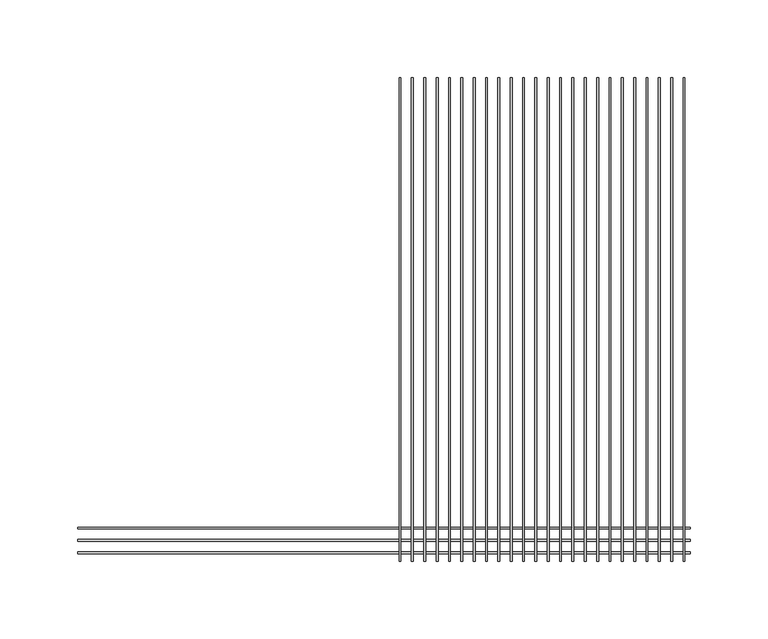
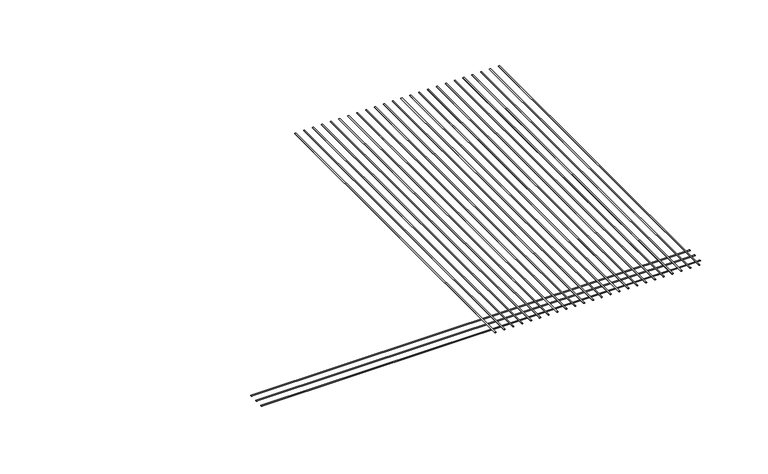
"""IFC4 building model written with IfcOpenShell, lengths in millimetres: proxy geometry, CRAi Generic Model Mesh Piece Face Based : CRAi Generic Model Mesh Piece Face Based."""

from ifc_helpers import new_model, si_unit, point, frame, origin, place, context, project, spatial, ellipse_curve, trimmed, source, transform, mapped, element, save
from ifc_brep_helpers import plane_surface, extruded_surface, advanced_brep


def generic_models_9f719c15(model_context):
    return source(origin(), model_context, "Body", "AdvancedBrep", [
        advanced_brep(
        [(9.7234375, 155.512111, -2.5796875), (10.9140625, 155.512111, -2.5796875), (9.7234375, -155.512111, -2.5796875), (10.9140625, -155.512111, -2.5796875)],
        [
            (0, 1, ellipse_curve(frame((10.31875, 155.512111, -2.5796875), z_axis=(0.0, 1.0, 0.0), x_axis=(1.0, 0.0, 0.0)), 0.5953125, 0.1984375)),
            (1, 0, ellipse_curve(frame((10.31875, 155.512111, -2.5796875), z_axis=(0.0, 1.0, 0.0), x_axis=(1.0, 0.0, 0.0)), 0.5953125, 0.1984375)),
            (2, 3, ellipse_curve(frame((10.31875, -155.512111, -2.5796875), z_axis=(0.0, -1.0, 0.0), x_axis=(1.0, 0.0, 0.0)), 0.5953125, 0.1984375)),
            (3, 2, ellipse_curve(frame((10.31875, -155.512111, -2.5796875), z_axis=(0.0, -1.0, 0.0), x_axis=(1.0, 0.0, 0.0)), 0.5953125, 0.1984375)),
            (1, 3),
            (2, 0),
        ],
        [
            plane_surface(frame((10.31875, 155.512111, -2.5796875), z_axis=(0.0, 1.0, 0.0), x_axis=(0.0, 0.0, 1.0))),
            plane_surface(frame((10.31875, -155.512111, -2.5796875), z_axis=(0.0, -1.0, 0.0), x_axis=(0.0, 0.0, 1.0))),
            extruded_surface(trimmed(ellipse_curve(frame((10.31875, 155.512111, -2.5796875), z_axis=(0.0, -1.0, 0.0), x_axis=(1.0, 0.0, 0.0)), 0.5953125, 0.1984375), [point((9.7234375, 155.512111, -2.5796875))], [point((10.9140625, 155.512111, -2.5796875))], True, "CARTESIAN"), (0.0, -311.024222, 0.0), 311.024222),
            extruded_surface(trimmed(ellipse_curve(frame((10.31875, 155.512111, -2.5796875), z_axis=(0.0, -1.0, 0.0), x_axis=(1.0, 0.0, 0.0)), 0.5953125, 0.1984375), [point((10.9140625, 155.512111, -2.5796875))], [point((9.7234375, 155.512111, -2.5796875))], True, "CARTESIAN"), (0.0, -311.024222, 0.0), 311.024222),
        ],
        [
            (0, [[1, 2]]),
            (1, [[3, 4]]),
            (2, [[5, -3, 6, -2]]),
            (3, [[-6, -4, -5, -1]]),
        ],
    ),
        advanced_brep(
        [(17.6609375, 155.512111, -2.5796875), (18.8515625, 155.512111, -2.5796875), (17.6609375, -155.512111, -2.5796875), (18.8515625, -155.512111, -2.5796875)],
        [
            (0, 1, ellipse_curve(frame((18.25625, 155.512111, -2.5796875), z_axis=(0.0, 1.0, 0.0), x_axis=(1.0, 0.0, 0.0)), 0.5953125, 0.1984375)),
            (1, 0, ellipse_curve(frame((18.25625, 155.512111, -2.5796875), z_axis=(0.0, 1.0, 0.0), x_axis=(1.0, 0.0, 0.0)), 0.5953125, 0.1984375)),
            (2, 3, ellipse_curve(frame((18.25625, -155.512111, -2.5796875), z_axis=(0.0, -1.0, 0.0), x_axis=(1.0, 0.0, 0.0)), 0.5953125, 0.1984375)),
            (3, 2, ellipse_curve(frame((18.25625, -155.512111, -2.5796875), z_axis=(0.0, -1.0, 0.0), x_axis=(1.0, 0.0, 0.0)), 0.5953125, 0.1984375)),
            (1, 3),
            (2, 0),
        ],
        [
            plane_surface(frame((18.25625, 155.512111, -2.5796875), z_axis=(0.0, 1.0, 0.0), x_axis=(0.0, 0.0, 1.0))),
            plane_surface(frame((18.25625, -155.512111, -2.5796875), z_axis=(0.0, -1.0, 0.0), x_axis=(0.0, 0.0, 1.0))),
            extruded_surface(trimmed(ellipse_curve(frame((18.25625, 155.512111, -2.5796875), z_axis=(0.0, -1.0, 0.0), x_axis=(1.0, 0.0, 0.0)), 0.5953125, 0.1984375), [point((17.6609375, 155.512111, -2.5796875))], [point((18.8515625, 155.512111, -2.5796875))], True, "CARTESIAN"), (0.0, -311.024222, 0.0), 311.024222),
            extruded_surface(trimmed(ellipse_curve(frame((18.25625, 155.512111, -2.5796875), z_axis=(0.0, -1.0, 0.0), x_axis=(1.0, 0.0, 0.0)), 0.5953125, 0.1984375), [point((18.8515625, 155.512111, -2.5796875))], [point((17.6609375, 155.512111, -2.5796875))], True, "CARTESIAN"), (0.0, -311.024222, 0.0), 311.024222),
        ],
        [
            (0, [[1, 2]]),
            (1, [[3, 4]]),
            (2, [[5, -3, 6, -2]]),
            (3, [[-6, -4, -5, -1]]),
        ],
    ),
        advanced_brep(
        [(25.5984375, 155.512111, -2.5796875), (26.7890625, 155.512111, -2.5796875), (25.5984375, -155.512111, -2.5796875), (26.7890625, -155.512111, -2.5796875)],
        [
            (0, 1, ellipse_curve(frame((26.19375, 155.512111, -2.5796875), z_axis=(0.0, 1.0, 0.0), x_axis=(1.0, 0.0, 0.0)), 0.5953125, 0.1984375)),
            (1, 0, ellipse_curve(frame((26.19375, 155.512111, -2.5796875), z_axis=(0.0, 1.0, 0.0), x_axis=(1.0, 0.0, 0.0)), 0.5953125, 0.1984375)),
            (2, 3, ellipse_curve(frame((26.19375, -155.512111, -2.5796875), z_axis=(0.0, -1.0, 0.0), x_axis=(1.0, 0.0, 0.0)), 0.5953125, 0.1984375)),
            (3, 2, ellipse_curve(frame((26.19375, -155.512111, -2.5796875), z_axis=(0.0, -1.0, 0.0), x_axis=(1.0, 0.0, 0.0)), 0.5953125, 0.1984375)),
            (1, 3),
            (2, 0),
        ],
        [
            plane_surface(frame((26.19375, 155.512111, -2.5796875), z_axis=(0.0, 1.0, 0.0), x_axis=(0.0, 0.0, 1.0))),
            plane_surface(frame((26.19375, -155.512111, -2.5796875), z_axis=(0.0, -1.0, 0.0), x_axis=(0.0, 0.0, 1.0))),
            extruded_surface(trimmed(ellipse_curve(frame((26.19375, 155.512111, -2.5796875), z_axis=(0.0, -1.0, 0.0), x_axis=(1.0, 0.0, 0.0)), 0.5953125, 0.1984375), [point((25.5984375, 155.512111, -2.5796875))], [point((26.7890625, 155.512111, -2.5796875))], True, "CARTESIAN"), (0.0, -311.024222, 0.0), 311.024222),
            extruded_surface(trimmed(ellipse_curve(frame((26.19375, 155.512111, -2.5796875), z_axis=(0.0, -1.0, 0.0), x_axis=(1.0, 0.0, 0.0)), 0.5953125, 0.1984375), [point((26.7890625, 155.512111, -2.5796875))], [point((25.5984375, 155.512111, -2.5796875))], True, "CARTESIAN"), (0.0, -311.024222, 0.0), 311.024222),
        ],
        [
            (0, [[1, 2]]),
            (1, [[3, 4]]),
            (2, [[5, -3, 6, -2]]),
            (3, [[-6, -4, -5, -1]]),
        ],
    ),
        advanced_brep(
        [(33.5359375, 155.512111, -2.5796875), (34.7265625, 155.512111, -2.5796875), (33.5359375, -155.512111, -2.5796875), (34.7265625, -155.512111, -2.5796875)],
        [
            (0, 1, ellipse_curve(frame((34.13125, 155.512111, -2.5796875), z_axis=(0.0, 1.0, 0.0), x_axis=(1.0, 0.0, 0.0)), 0.5953125, 0.1984375)),
            (1, 0, ellipse_curve(frame((34.13125, 155.512111, -2.5796875), z_axis=(0.0, 1.0, 0.0), x_axis=(1.0, 0.0, 0.0)), 0.5953125, 0.1984375)),
            (2, 3, ellipse_curve(frame((34.13125, -155.512111, -2.5796875), z_axis=(0.0, -1.0, 0.0), x_axis=(1.0, 0.0, 0.0)), 0.5953125, 0.1984375)),
            (3, 2, ellipse_curve(frame((34.13125, -155.512111, -2.5796875), z_axis=(0.0, -1.0, 0.0), x_axis=(1.0, 0.0, 0.0)), 0.5953125, 0.1984375)),
            (1, 3),
            (2, 0),
        ],
        [
            plane_surface(frame((34.13125, 155.512111, -2.5796875), z_axis=(0.0, 1.0, 0.0), x_axis=(0.0, 0.0, 1.0))),
            plane_surface(frame((34.13125, -155.512111, -2.5796875), z_axis=(0.0, -1.0, 0.0), x_axis=(0.0, 0.0, 1.0))),
            extruded_surface(trimmed(ellipse_curve(frame((34.13125, 155.512111, -2.5796875), z_axis=(0.0, -1.0, 0.0), x_axis=(1.0, 0.0, 0.0)), 0.5953125, 0.1984375), [point((33.5359375, 155.512111, -2.5796875))], [point((34.7265625, 155.512111, -2.5796875))], True, "CARTESIAN"), (0.0, -311.024222, 0.0), 311.024222),
            extruded_surface(trimmed(ellipse_curve(frame((34.13125, 155.512111, -2.5796875), z_axis=(0.0, -1.0, 0.0), x_axis=(1.0, 0.0, 0.0)), 0.5953125, 0.1984375), [point((34.7265625, 155.512111, -2.5796875))], [point((33.5359375, 155.512111, -2.5796875))], True, "CARTESIAN"), (0.0, -311.024222, 0.0), 311.024222),
        ],
        [
            (0, [[1, 2]]),
            (1, [[3, 4]]),
            (2, [[5, -3, 6, -2]]),
            (3, [[-6, -4, -5, -1]]),
        ],
    ),
        advanced_brep(
        [(41.4734375, 155.512111, -2.5796875), (42.6640625, 155.512111, -2.5796875), (41.4734375, -155.512111, -2.5796875), (42.6640625, -155.512111, -2.5796875)],
        [
            (0, 1, ellipse_curve(frame((42.06875, 155.512111, -2.5796875), z_axis=(0.0, 1.0, 0.0), x_axis=(1.0, 0.0, 0.0)), 0.5953125, 0.1984375)),
            (1, 0, ellipse_curve(frame((42.06875, 155.512111, -2.5796875), z_axis=(0.0, 1.0, 0.0), x_axis=(1.0, 0.0, 0.0)), 0.5953125, 0.1984375)),
            (2, 3, ellipse_curve(frame((42.06875, -155.512111, -2.5796875), z_axis=(0.0, -1.0, 0.0), x_axis=(1.0, 0.0, 0.0)), 0.5953125, 0.1984375)),
            (3, 2, ellipse_curve(frame((42.06875, -155.512111, -2.5796875), z_axis=(0.0, -1.0, 0.0), x_axis=(1.0, 0.0, 0.0)), 0.5953125, 0.1984375)),
            (1, 3),
            (2, 0),
        ],
        [
            plane_surface(frame((42.06875, 155.512111, -2.5796875), z_axis=(0.0, 1.0, 0.0), x_axis=(0.0, 0.0, 1.0))),
            plane_surface(frame((42.06875, -155.512111, -2.5796875), z_axis=(0.0, -1.0, 0.0), x_axis=(0.0, 0.0, 1.0))),
            extruded_surface(trimmed(ellipse_curve(frame((42.06875, 155.512111, -2.5796875), z_axis=(0.0, -1.0, 0.0), x_axis=(1.0, 0.0, 0.0)), 0.5953125, 0.1984375), [point((41.4734375, 155.512111, -2.5796875))], [point((42.6640625, 155.512111, -2.5796875))], True, "CARTESIAN"), (0.0, -311.024222, 0.0), 311.024222),
            extruded_surface(trimmed(ellipse_curve(frame((42.06875, 155.512111, -2.5796875), z_axis=(0.0, -1.0, 0.0), x_axis=(1.0, 0.0, 0.0)), 0.5953125, 0.1984375), [point((42.6640625, 155.512111, -2.5796875))], [point((41.4734375, 155.512111, -2.5796875))], True, "CARTESIAN"), (0.0, -311.024222, 0.0), 311.024222),
        ],
        [
            (0, [[1, 2]]),
            (1, [[3, 4]]),
            (2, [[5, -3, 6, -2]]),
            (3, [[-6, -4, -5, -1]]),
        ],
    ),
        advanced_brep(
        [(49.4109375, 155.512111, -2.5796875), (50.6015625, 155.512111, -2.5796875), (49.4109375, -155.512111, -2.5796875), (50.6015625, -155.512111, -2.5796875)],
        [
            (0, 1, ellipse_curve(frame((50.00625, 155.512111, -2.5796875), z_axis=(0.0, 1.0, 0.0), x_axis=(1.0, 0.0, 0.0)), 0.5953125, 0.1984375)),
            (1, 0, ellipse_curve(frame((50.00625, 155.512111, -2.5796875), z_axis=(0.0, 1.0, 0.0), x_axis=(1.0, 0.0, 0.0)), 0.5953125, 0.1984375)),
            (2, 3, ellipse_curve(frame((50.00625, -155.512111, -2.5796875), z_axis=(0.0, -1.0, 0.0), x_axis=(1.0, 0.0, 0.0)), 0.5953125, 0.1984375)),
            (3, 2, ellipse_curve(frame((50.00625, -155.512111, -2.5796875), z_axis=(0.0, -1.0, 0.0), x_axis=(1.0, 0.0, 0.0)), 0.5953125, 0.1984375)),
            (1, 3),
            (2, 0),
        ],
        [
            plane_surface(frame((50.00625, 155.512111, -2.5796875), z_axis=(0.0, 1.0, 0.0), x_axis=(0.0, 0.0, 1.0))),
            plane_surface(frame((50.00625, -155.512111, -2.5796875), z_axis=(0.0, -1.0, 0.0), x_axis=(0.0, 0.0, 1.0))),
            extruded_surface(trimmed(ellipse_curve(frame((50.00625, 155.512111, -2.5796875), z_axis=(0.0, -1.0, 0.0), x_axis=(1.0, 0.0, 0.0)), 0.5953125, 0.1984375), [point((49.4109375, 155.512111, -2.5796875))], [point((50.6015625, 155.512111, -2.5796875))], True, "CARTESIAN"), (0.0, -311.024222, 0.0), 311.024222),
            extruded_surface(trimmed(ellipse_curve(frame((50.00625, 155.512111, -2.5796875), z_axis=(0.0, -1.0, 0.0), x_axis=(1.0, 0.0, 0.0)), 0.5953125, 0.1984375), [point((50.6015625, 155.512111, -2.5796875))], [point((49.4109375, 155.512111, -2.5796875))], True, "CARTESIAN"), (0.0, -311.024222, 0.0), 311.024222),
        ],
        [
            (0, [[1, 2]]),
            (1, [[3, 4]]),
            (2, [[5, -3, 6, -2]]),
            (3, [[-6, -4, -5, -1]]),
        ],
    ),
        advanced_brep(
        [(57.3484375, 155.512111, -2.5796875), (58.5390625, 155.512111, -2.5796875), (57.3484375, -155.512111, -2.5796875), (58.5390625, -155.512111, -2.5796875)],
        [
            (0, 1, ellipse_curve(frame((57.94375, 155.512111, -2.5796875), z_axis=(0.0, 1.0, 0.0), x_axis=(1.0, 0.0, 0.0)), 0.5953125, 0.1984375)),
            (1, 0, ellipse_curve(frame((57.94375, 155.512111, -2.5796875), z_axis=(0.0, 1.0, 0.0), x_axis=(1.0, 0.0, 0.0)), 0.5953125, 0.1984375)),
            (2, 3, ellipse_curve(frame((57.94375, -155.512111, -2.5796875), z_axis=(0.0, -1.0, 0.0), x_axis=(1.0, 0.0, 0.0)), 0.5953125, 0.1984375)),
            (3, 2, ellipse_curve(frame((57.94375, -155.512111, -2.5796875), z_axis=(0.0, -1.0, 0.0), x_axis=(1.0, 0.0, 0.0)), 0.5953125, 0.1984375)),
            (1, 3),
            (2, 0),
        ],
        [
            plane_surface(frame((57.94375, 155.512111, -2.5796875), z_axis=(0.0, 1.0, 0.0), x_axis=(0.0, 0.0, 1.0))),
            plane_surface(frame((57.94375, -155.512111, -2.5796875), z_axis=(0.0, -1.0, 0.0), x_axis=(0.0, 0.0, 1.0))),
            extruded_surface(trimmed(ellipse_curve(frame((57.94375, 155.512111, -2.5796875), z_axis=(0.0, -1.0, 0.0), x_axis=(1.0, 0.0, 0.0)), 0.5953125, 0.1984375), [point((57.3484375, 155.512111, -2.5796875))], [point((58.5390625, 155.512111, -2.5796875))], True, "CARTESIAN"), (0.0, -311.024222, 0.0), 311.024222),
            extruded_surface(trimmed(ellipse_curve(frame((57.94375, 155.512111, -2.5796875), z_axis=(0.0, -1.0, 0.0), x_axis=(1.0, 0.0, 0.0)), 0.5953125, 0.1984375), [point((58.5390625, 155.512111, -2.5796875))], [point((57.3484375, 155.512111, -2.5796875))], True, "CARTESIAN"), (0.0, -311.024222, 0.0), 311.024222),
        ],
        [
            (0, [[1, 2]]),
            (1, [[3, 4]]),
            (2, [[5, -3, 6, -2]]),
            (3, [[-6, -4, -5, -1]]),
        ],
    ),
        advanced_brep(
        [(65.2859375, 155.512111, -2.5796875), (66.4765625, 155.512111, -2.5796875), (65.2859375, -155.512111, -2.5796875), (66.4765625, -155.512111, -2.5796875)],
        [
            (0, 1, ellipse_curve(frame((65.88125, 155.512111, -2.5796875), z_axis=(0.0, 1.0, 0.0), x_axis=(1.0, 0.0, 0.0)), 0.5953125, 0.1984375)),
            (1, 0, ellipse_curve(frame((65.88125, 155.512111, -2.5796875), z_axis=(0.0, 1.0, 0.0), x_axis=(1.0, 0.0, 0.0)), 0.5953125, 0.1984375)),
            (2, 3, ellipse_curve(frame((65.88125, -155.512111, -2.5796875), z_axis=(0.0, -1.0, 0.0), x_axis=(1.0, 0.0, 0.0)), 0.5953125, 0.1984375)),
            (3, 2, ellipse_curve(frame((65.88125, -155.512111, -2.5796875), z_axis=(0.0, -1.0, 0.0), x_axis=(1.0, 0.0, 0.0)), 0.5953125, 0.1984375)),
            (1, 3),
            (2, 0),
        ],
        [
            plane_surface(frame((65.88125, 155.512111, -2.5796875), z_axis=(0.0, 1.0, 0.0), x_axis=(0.0, 0.0, 1.0))),
            plane_surface(frame((65.88125, -155.512111, -2.5796875), z_axis=(0.0, -1.0, 0.0), x_axis=(0.0, 0.0, 1.0))),
            extruded_surface(trimmed(ellipse_curve(frame((65.88125, 155.512111, -2.5796875), z_axis=(0.0, -1.0, 0.0), x_axis=(1.0, 0.0, 0.0)), 0.5953125, 0.1984375), [point((65.2859375, 155.512111, -2.5796875))], [point((66.4765625, 155.512111, -2.5796875))], True, "CARTESIAN"), (0.0, -311.024222, 0.0), 311.024222),
            extruded_surface(trimmed(ellipse_curve(frame((65.88125, 155.512111, -2.5796875), z_axis=(0.0, -1.0, 0.0), x_axis=(1.0, 0.0, 0.0)), 0.5953125, 0.1984375), [point((66.4765625, 155.512111, -2.5796875))], [point((65.2859375, 155.512111, -2.5796875))], True, "CARTESIAN"), (0.0, -311.024222, 0.0), 311.024222),
        ],
        [
            (0, [[1, 2]]),
            (1, [[3, 4]]),
            (2, [[5, -3, 6, -2]]),
            (3, [[-6, -4, -5, -1]]),
        ],
    ),
        advanced_brep(
        [(73.2234375, 155.512111, -2.5796875), (74.4140625, 155.512111, -2.5796875), (73.2234375, -155.512111, -2.5796875), (74.4140625, -155.512111, -2.5796875)],
        [
            (0, 1, ellipse_curve(frame((73.81875, 155.512111, -2.5796875), z_axis=(0.0, 1.0, 0.0), x_axis=(1.0, 0.0, 0.0)), 0.5953125, 0.1984375)),
            (1, 0, ellipse_curve(frame((73.81875, 155.512111, -2.5796875), z_axis=(0.0, 1.0, 0.0), x_axis=(1.0, 0.0, 0.0)), 0.5953125, 0.1984375)),
            (2, 3, ellipse_curve(frame((73.81875, -155.512111, -2.5796875), z_axis=(0.0, -1.0, 0.0), x_axis=(1.0, 0.0, 0.0)), 0.5953125, 0.1984375)),
            (3, 2, ellipse_curve(frame((73.81875, -155.512111, -2.5796875), z_axis=(0.0, -1.0, 0.0), x_axis=(1.0, 0.0, 0.0)), 0.5953125, 0.1984375)),
            (1, 3),
            (2, 0),
        ],
        [
            plane_surface(frame((73.81875, 155.512111, -2.5796875), z_axis=(0.0, 1.0, 0.0), x_axis=(0.0, 0.0, 1.0))),
            plane_surface(frame((73.81875, -155.512111, -2.5796875), z_axis=(0.0, -1.0, 0.0), x_axis=(0.0, 0.0, 1.0))),
            extruded_surface(trimmed(ellipse_curve(frame((73.81875, 155.512111, -2.5796875), z_axis=(0.0, -1.0, 0.0), x_axis=(1.0, 0.0, 0.0)), 0.5953125, 0.1984375), [point((73.2234375, 155.512111, -2.5796875))], [point((74.4140625, 155.512111, -2.5796875))], True, "CARTESIAN"), (0.0, -311.024222, 0.0), 311.024222),
            extruded_surface(trimmed(ellipse_curve(frame((73.81875, 155.512111, -2.5796875), z_axis=(0.0, -1.0, 0.0), x_axis=(1.0, 0.0, 0.0)), 0.5953125, 0.1984375), [point((74.4140625, 155.512111, -2.5796875))], [point((73.2234375, 155.512111, -2.5796875))], True, "CARTESIAN"), (0.0, -311.024222, 0.0), 311.024222),
        ],
        [
            (0, [[1, 2]]),
            (1, [[3, 4]]),
            (2, [[5, -3, 6, -2]]),
            (3, [[-6, -4, -5, -1]]),
        ],
    ),
        advanced_brep(
        [(81.1609375, 155.512111, -2.5796875), (82.3515625, 155.512111, -2.5796875), (81.1609375, -155.512111, -2.5796875), (82.3515625, -155.512111, -2.5796875)],
        [
            (0, 1, ellipse_curve(frame((81.75625, 155.512111, -2.5796875), z_axis=(0.0, 1.0, 0.0), x_axis=(1.0, 0.0, 0.0)), 0.5953125, 0.1984375)),
            (1, 0, ellipse_curve(frame((81.75625, 155.512111, -2.5796875), z_axis=(0.0, 1.0, 0.0), x_axis=(1.0, 0.0, 0.0)), 0.5953125, 0.1984375)),
            (2, 3, ellipse_curve(frame((81.75625, -155.512111, -2.5796875), z_axis=(0.0, -1.0, 0.0), x_axis=(1.0, 0.0, 0.0)), 0.5953125, 0.1984375)),
            (3, 2, ellipse_curve(frame((81.75625, -155.512111, -2.5796875), z_axis=(0.0, -1.0, 0.0), x_axis=(1.0, 0.0, 0.0)), 0.5953125, 0.1984375)),
            (1, 3),
            (2, 0),
        ],
        [
            plane_surface(frame((81.75625, 155.512111, -2.5796875), z_axis=(0.0, 1.0, 0.0), x_axis=(0.0, 0.0, 1.0))),
            plane_surface(frame((81.75625, -155.512111, -2.5796875), z_axis=(0.0, -1.0, 0.0), x_axis=(0.0, 0.0, 1.0))),
            extruded_surface(trimmed(ellipse_curve(frame((81.75625, 155.512111, -2.5796875), z_axis=(0.0, -1.0, 0.0), x_axis=(1.0, 0.0, 0.0)), 0.5953125, 0.1984375), [point((81.1609375, 155.512111, -2.5796875))], [point((82.3515625, 155.512111, -2.5796875))], True, "CARTESIAN"), (0.0, -311.024222, 0.0), 311.024222),
            extruded_surface(trimmed(ellipse_curve(frame((81.75625, 155.512111, -2.5796875), z_axis=(0.0, -1.0, 0.0), x_axis=(1.0, 0.0, 0.0)), 0.5953125, 0.1984375), [point((82.3515625, 155.512111, -2.5796875))], [point((81.1609375, 155.512111, -2.5796875))], True, "CARTESIAN"), (0.0, -311.024222, 0.0), 311.024222),
        ],
        [
            (0, [[1, 2]]),
            (1, [[3, 4]]),
            (2, [[5, -3, 6, -2]]),
            (3, [[-6, -4, -5, -1]]),
        ],
    ),
        advanced_brep(
        [(89.0984375, 155.512111, -2.5796875), (90.2890625, 155.512111, -2.5796875), (89.0984375, -155.512111, -2.5796875), (90.2890625, -155.512111, -2.5796875)],
        [
            (0, 1, ellipse_curve(frame((89.69375, 155.512111, -2.5796875), z_axis=(0.0, 1.0, 0.0), x_axis=(1.0, 0.0, 0.0)), 0.5953125, 0.1984375)),
            (1, 0, ellipse_curve(frame((89.69375, 155.512111, -2.5796875), z_axis=(0.0, 1.0, 0.0), x_axis=(1.0, 0.0, 0.0)), 0.5953125, 0.1984375)),
            (2, 3, ellipse_curve(frame((89.69375, -155.512111, -2.5796875), z_axis=(0.0, -1.0, 0.0), x_axis=(1.0, 0.0, 0.0)), 0.5953125, 0.1984375)),
            (3, 2, ellipse_curve(frame((89.69375, -155.512111, -2.5796875), z_axis=(0.0, -1.0, 0.0), x_axis=(1.0, 0.0, 0.0)), 0.5953125, 0.1984375)),
            (1, 3),
            (2, 0),
        ],
        [
            plane_surface(frame((89.69375, 155.512111, -2.5796875), z_axis=(0.0, 1.0, 0.0), x_axis=(0.0, 0.0, 1.0))),
            plane_surface(frame((89.69375, -155.512111, -2.5796875), z_axis=(0.0, -1.0, 0.0), x_axis=(0.0, 0.0, 1.0))),
            extruded_surface(trimmed(ellipse_curve(frame((89.69375, 155.512111, -2.5796875), z_axis=(0.0, -1.0, 0.0), x_axis=(1.0, 0.0, 0.0)), 0.5953125, 0.1984375), [point((89.0984375, 155.512111, -2.5796875))], [point((90.2890625, 155.512111, -2.5796875))], True, "CARTESIAN"), (0.0, -311.024222, 0.0), 311.024222),
            extruded_surface(trimmed(ellipse_curve(frame((89.69375, 155.512111, -2.5796875), z_axis=(0.0, -1.0, 0.0), x_axis=(1.0, 0.0, 0.0)), 0.5953125, 0.1984375), [point((90.2890625, 155.512111, -2.5796875))], [point((89.0984375, 155.512111, -2.5796875))], True, "CARTESIAN"), (0.0, -311.024222, 0.0), 311.024222),
        ],
        [
            (0, [[1, 2]]),
            (1, [[3, 4]]),
            (2, [[5, -3, 6, -2]]),
            (3, [[-6, -4, -5, -1]]),
        ],
    ),
        advanced_brep(
        [(97.0359375, 155.512111, -2.5796875), (98.2265625, 155.512111, -2.5796875), (97.0359375, -155.512111, -2.5796875), (98.2265625, -155.512111, -2.5796875)],
        [
            (0, 1, ellipse_curve(frame((97.63125, 155.512111, -2.5796875), z_axis=(0.0, 1.0, 0.0), x_axis=(1.0, 0.0, 0.0)), 0.5953125, 0.1984375)),
            (1, 0, ellipse_curve(frame((97.63125, 155.512111, -2.5796875), z_axis=(0.0, 1.0, 0.0), x_axis=(1.0, 0.0, 0.0)), 0.5953125, 0.1984375)),
            (2, 3, ellipse_curve(frame((97.63125, -155.512111, -2.5796875), z_axis=(0.0, -1.0, 0.0), x_axis=(1.0, 0.0, 0.0)), 0.5953125, 0.1984375)),
            (3, 2, ellipse_curve(frame((97.63125, -155.512111, -2.5796875), z_axis=(0.0, -1.0, 0.0), x_axis=(1.0, 0.0, 0.0)), 0.5953125, 0.1984375)),
            (1, 3),
            (2, 0),
        ],
        [
            plane_surface(frame((97.63125, 155.512111, -2.5796875), z_axis=(0.0, 1.0, 0.0), x_axis=(0.0, 0.0, 1.0))),
            plane_surface(frame((97.63125, -155.512111, -2.5796875), z_axis=(0.0, -1.0, 0.0), x_axis=(0.0, 0.0, 1.0))),
            extruded_surface(trimmed(ellipse_curve(frame((97.63125, 155.512111, -2.5796875), z_axis=(0.0, -1.0, 0.0), x_axis=(1.0, 0.0, 0.0)), 0.5953125, 0.1984375), [point((97.0359375, 155.512111, -2.5796875))], [point((98.2265625, 155.512111, -2.5796875))], True, "CARTESIAN"), (0.0, -311.024222, 0.0), 311.024222),
            extruded_surface(trimmed(ellipse_curve(frame((97.63125, 155.512111, -2.5796875), z_axis=(0.0, -1.0, 0.0), x_axis=(1.0, 0.0, 0.0)), 0.5953125, 0.1984375), [point((98.2265625, 155.512111, -2.5796875))], [point((97.0359375, 155.512111, -2.5796875))], True, "CARTESIAN"), (0.0, -311.024222, 0.0), 311.024222),
        ],
        [
            (0, [[1, 2]]),
            (1, [[3, 4]]),
            (2, [[5, -3, 6, -2]]),
            (3, [[-6, -4, -5, -1]]),
        ],
    ),
        advanced_brep(
        [(104.9734375, 155.512111, -2.5796875), (106.1640625, 155.512111, -2.5796875), (104.9734375, -155.512111, -2.5796875), (106.1640625, -155.512111, -2.5796875)],
        [
            (0, 1, ellipse_curve(frame((105.56875, 155.512111, -2.5796875), z_axis=(0.0, 1.0, 0.0), x_axis=(1.0, 0.0, 0.0)), 0.5953125, 0.1984375)),
            (1, 0, ellipse_curve(frame((105.56875, 155.512111, -2.5796875), z_axis=(0.0, 1.0, 0.0), x_axis=(1.0, 0.0, 0.0)), 0.5953125, 0.1984375)),
            (2, 3, ellipse_curve(frame((105.56875, -155.512111, -2.5796875), z_axis=(0.0, -1.0, 0.0), x_axis=(1.0, 0.0, 0.0)), 0.5953125, 0.1984375)),
            (3, 2, ellipse_curve(frame((105.56875, -155.512111, -2.5796875), z_axis=(0.0, -1.0, 0.0), x_axis=(1.0, 0.0, 0.0)), 0.5953125, 0.1984375)),
            (1, 3),
            (2, 0),
        ],
        [
            plane_surface(frame((105.56875, 155.512111, -2.5796875), z_axis=(0.0, 1.0, 0.0), x_axis=(0.0, 0.0, 1.0))),
            plane_surface(frame((105.56875, -155.512111, -2.5796875), z_axis=(0.0, -1.0, 0.0), x_axis=(0.0, 0.0, 1.0))),
            extruded_surface(trimmed(ellipse_curve(frame((105.56875, 155.512111, -2.5796875), z_axis=(0.0, -1.0, 0.0), x_axis=(1.0, 0.0, 0.0)), 0.5953125, 0.1984375), [point((104.9734375, 155.512111, -2.5796875))], [point((106.1640625, 155.512111, -2.5796875))], True, "CARTESIAN"), (0.0, -311.024222, 0.0), 311.024222),
            extruded_surface(trimmed(ellipse_curve(frame((105.56875, 155.512111, -2.5796875), z_axis=(0.0, -1.0, 0.0), x_axis=(1.0, 0.0, 0.0)), 0.5953125, 0.1984375), [point((106.1640625, 155.512111, -2.5796875))], [point((104.9734375, 155.512111, -2.5796875))], True, "CARTESIAN"), (0.0, -311.024222, 0.0), 311.024222),
        ],
        [
            (0, [[1, 2]]),
            (1, [[3, 4]]),
            (2, [[5, -3, 6, -2]]),
            (3, [[-6, -4, -5, -1]]),
        ],
    ),
        advanced_brep(
        [(112.9109375, 155.512111, -2.5796875), (114.1015625, 155.512111, -2.5796875), (112.9109375, -155.512111, -2.5796875), (114.1015625, -155.512111, -2.5796875)],
        [
            (0, 1, ellipse_curve(frame((113.50625, 155.512111, -2.5796875), z_axis=(0.0, 1.0, 0.0), x_axis=(1.0, 0.0, 0.0)), 0.5953125, 0.1984375)),
            (1, 0, ellipse_curve(frame((113.50625, 155.512111, -2.5796875), z_axis=(0.0, 1.0, 0.0), x_axis=(1.0, 0.0, 0.0)), 0.5953125, 0.1984375)),
            (2, 3, ellipse_curve(frame((113.50625, -155.512111, -2.5796875), z_axis=(0.0, -1.0, 0.0), x_axis=(1.0, 0.0, 0.0)), 0.5953125, 0.1984375)),
            (3, 2, ellipse_curve(frame((113.50625, -155.512111, -2.5796875), z_axis=(0.0, -1.0, 0.0), x_axis=(1.0, 0.0, 0.0)), 0.5953125, 0.1984375)),
            (1, 3),
            (2, 0),
        ],
        [
            plane_surface(frame((113.50625, 155.512111, -2.5796875), z_axis=(0.0, 1.0, 0.0), x_axis=(0.0, 0.0, 1.0))),
            plane_surface(frame((113.50625, -155.512111, -2.5796875), z_axis=(0.0, -1.0, 0.0), x_axis=(0.0, 0.0, 1.0))),
            extruded_surface(trimmed(ellipse_curve(frame((113.50625, 155.512111, -2.5796875), z_axis=(0.0, -1.0, 0.0), x_axis=(1.0, 0.0, 0.0)), 0.5953125, 0.1984375), [point((112.9109375, 155.512111, -2.5796875))], [point((114.1015625, 155.512111, -2.5796875))], True, "CARTESIAN"), (0.0, -311.024222, 0.0), 311.024222),
            extruded_surface(trimmed(ellipse_curve(frame((113.50625, 155.512111, -2.5796875), z_axis=(0.0, -1.0, 0.0), x_axis=(1.0, 0.0, 0.0)), 0.5953125, 0.1984375), [point((114.1015625, 155.512111, -2.5796875))], [point((112.9109375, 155.512111, -2.5796875))], True, "CARTESIAN"), (0.0, -311.024222, 0.0), 311.024222),
        ],
        [
            (0, [[1, 2]]),
            (1, [[3, 4]]),
            (2, [[5, -3, 6, -2]]),
            (3, [[-6, -4, -5, -1]]),
        ],
    ),
        advanced_brep(
        [(120.8484375, 155.512111, -2.5796875), (122.0390625, 155.512111, -2.5796875), (120.8484375, -155.512111, -2.5796875), (122.0390625, -155.512111, -2.5796875)],
        [
            (0, 1, ellipse_curve(frame((121.44375, 155.512111, -2.5796875), z_axis=(0.0, 1.0, 0.0), x_axis=(1.0, 0.0, 0.0)), 0.5953125, 0.1984375)),
            (1, 0, ellipse_curve(frame((121.44375, 155.512111, -2.5796875), z_axis=(0.0, 1.0, 0.0), x_axis=(1.0, 0.0, 0.0)), 0.5953125, 0.1984375)),
            (2, 3, ellipse_curve(frame((121.44375, -155.512111, -2.5796875), z_axis=(0.0, -1.0, 0.0), x_axis=(1.0, 0.0, 0.0)), 0.5953125, 0.1984375)),
            (3, 2, ellipse_curve(frame((121.44375, -155.512111, -2.5796875), z_axis=(0.0, -1.0, 0.0), x_axis=(1.0, 0.0, 0.0)), 0.5953125, 0.1984375)),
            (1, 3),
            (2, 0),
        ],
        [
            plane_surface(frame((121.44375, 155.512111, -2.5796875), z_axis=(0.0, 1.0, 0.0), x_axis=(0.0, 0.0, 1.0))),
            plane_surface(frame((121.44375, -155.512111, -2.5796875), z_axis=(0.0, -1.0, 0.0), x_axis=(0.0, 0.0, 1.0))),
            extruded_surface(trimmed(ellipse_curve(frame((121.44375, 155.512111, -2.5796875), z_axis=(0.0, -1.0, 0.0), x_axis=(1.0, 0.0, 0.0)), 0.5953125, 0.1984375), [point((120.8484375, 155.512111, -2.5796875))], [point((122.0390625, 155.512111, -2.5796875))], True, "CARTESIAN"), (0.0, -311.024222, 0.0), 311.024222),
            extruded_surface(trimmed(ellipse_curve(frame((121.44375, 155.512111, -2.5796875), z_axis=(0.0, -1.0, 0.0), x_axis=(1.0, 0.0, 0.0)), 0.5953125, 0.1984375), [point((122.0390625, 155.512111, -2.5796875))], [point((120.8484375, 155.512111, -2.5796875))], True, "CARTESIAN"), (0.0, -311.024222, 0.0), 311.024222),
        ],
        [
            (0, [[1, 2]]),
            (1, [[3, 4]]),
            (2, [[5, -3, 6, -2]]),
            (3, [[-6, -4, -5, -1]]),
        ],
    ),
        advanced_brep(
        [(128.7859375, 155.512111, -2.5796875), (129.9765625, 155.512111, -2.5796875), (128.7859375, -155.512111, -2.5796875), (129.9765625, -155.512111, -2.5796875)],
        [
            (0, 1, ellipse_curve(frame((129.38125, 155.512111, -2.5796875), z_axis=(0.0, 1.0, 0.0), x_axis=(1.0, 0.0, 0.0)), 0.5953125, 0.1984375)),
            (1, 0, ellipse_curve(frame((129.38125, 155.512111, -2.5796875), z_axis=(0.0, 1.0, 0.0), x_axis=(1.0, 0.0, 0.0)), 0.5953125, 0.1984375)),
            (2, 3, ellipse_curve(frame((129.38125, -155.512111, -2.5796875), z_axis=(0.0, -1.0, 0.0), x_axis=(1.0, 0.0, 0.0)), 0.5953125, 0.1984375)),
            (3, 2, ellipse_curve(frame((129.38125, -155.512111, -2.5796875), z_axis=(0.0, -1.0, 0.0), x_axis=(1.0, 0.0, 0.0)), 0.5953125, 0.1984375)),
            (1, 3),
            (2, 0),
        ],
        [
            plane_surface(frame((129.38125, 155.512111, -2.5796875), z_axis=(0.0, 1.0, 0.0), x_axis=(0.0, 0.0, 1.0))),
            plane_surface(frame((129.38125, -155.512111, -2.5796875), z_axis=(0.0, -1.0, 0.0), x_axis=(0.0, 0.0, 1.0))),
            extruded_surface(trimmed(ellipse_curve(frame((129.38125, 155.512111, -2.5796875), z_axis=(0.0, -1.0, 0.0), x_axis=(1.0, 0.0, 0.0)), 0.5953125, 0.1984375), [point((128.7859375, 155.512111, -2.5796875))], [point((129.9765625, 155.512111, -2.5796875))], True, "CARTESIAN"), (0.0, -311.024222, 0.0), 311.024222),
            extruded_surface(trimmed(ellipse_curve(frame((129.38125, 155.512111, -2.5796875), z_axis=(0.0, -1.0, 0.0), x_axis=(1.0, 0.0, 0.0)), 0.5953125, 0.1984375), [point((129.9765625, 155.512111, -2.5796875))], [point((128.7859375, 155.512111, -2.5796875))], True, "CARTESIAN"), (0.0, -311.024222, 0.0), 311.024222),
        ],
        [
            (0, [[1, 2]]),
            (1, [[3, 4]]),
            (2, [[5, -3, 6, -2]]),
            (3, [[-6, -4, -5, -1]]),
        ],
    ),
        advanced_brep(
        [(136.7234375, 155.512111, -2.5796875), (137.9140625, 155.512111, -2.5796875), (136.7234375, -155.512111, -2.5796875), (137.9140625, -155.512111, -2.5796875)],
        [
            (0, 1, ellipse_curve(frame((137.31875, 155.512111, -2.5796875), z_axis=(0.0, 1.0, 0.0), x_axis=(1.0, 0.0, 0.0)), 0.5953125, 0.1984375)),
            (1, 0, ellipse_curve(frame((137.31875, 155.512111, -2.5796875), z_axis=(0.0, 1.0, 0.0), x_axis=(1.0, 0.0, 0.0)), 0.5953125, 0.1984375)),
            (2, 3, ellipse_curve(frame((137.31875, -155.512111, -2.5796875), z_axis=(0.0, -1.0, 0.0), x_axis=(1.0, 0.0, 0.0)), 0.5953125, 0.1984375)),
            (3, 2, ellipse_curve(frame((137.31875, -155.512111, -2.5796875), z_axis=(0.0, -1.0, 0.0), x_axis=(1.0, 0.0, 0.0)), 0.5953125, 0.1984375)),
            (1, 3),
            (2, 0),
        ],
        [
            plane_surface(frame((137.31875, 155.512111, -2.5796875), z_axis=(0.0, 1.0, 0.0), x_axis=(0.0, 0.0, 1.0))),
            plane_surface(frame((137.31875, -155.512111, -2.5796875), z_axis=(0.0, -1.0, 0.0), x_axis=(0.0, 0.0, 1.0))),
            extruded_surface(trimmed(ellipse_curve(frame((137.31875, 155.512111, -2.5796875), z_axis=(0.0, -1.0, 0.0), x_axis=(1.0, 0.0, 0.0)), 0.5953125, 0.1984375), [point((136.7234375, 155.512111, -2.5796875))], [point((137.9140625, 155.512111, -2.5796875))], True, "CARTESIAN"), (0.0, -311.024222, 0.0), 311.024222),
            extruded_surface(trimmed(ellipse_curve(frame((137.31875, 155.512111, -2.5796875), z_axis=(0.0, -1.0, 0.0), x_axis=(1.0, 0.0, 0.0)), 0.5953125, 0.1984375), [point((137.9140625, 155.512111, -2.5796875))], [point((136.7234375, 155.512111, -2.5796875))], True, "CARTESIAN"), (0.0, -311.024222, 0.0), 311.024222),
        ],
        [
            (0, [[1, 2]]),
            (1, [[3, 4]]),
            (2, [[5, -3, 6, -2]]),
            (3, [[-6, -4, -5, -1]]),
        ],
    ),
        advanced_brep(
        [(144.6609375, 155.512111, -2.5796875), (145.8515625, 155.512111, -2.5796875), (144.6609375, -155.512111, -2.5796875), (145.8515625, -155.512111, -2.5796875)],
        [
            (0, 1, ellipse_curve(frame((145.25625, 155.512111, -2.5796875), z_axis=(0.0, 1.0, 0.0), x_axis=(1.0, 0.0, 0.0)), 0.5953125, 0.1984375)),
            (1, 0, ellipse_curve(frame((145.25625, 155.512111, -2.5796875), z_axis=(0.0, 1.0, 0.0), x_axis=(1.0, 0.0, 0.0)), 0.5953125, 0.1984375)),
            (2, 3, ellipse_curve(frame((145.25625, -155.512111, -2.5796875), z_axis=(0.0, -1.0, 0.0), x_axis=(1.0, 0.0, 0.0)), 0.5953125, 0.1984375)),
            (3, 2, ellipse_curve(frame((145.25625, -155.512111, -2.5796875), z_axis=(0.0, -1.0, 0.0), x_axis=(1.0, 0.0, 0.0)), 0.5953125, 0.1984375)),
            (1, 3),
            (2, 0),
        ],
        [
            plane_surface(frame((145.25625, 155.512111, -2.5796875), z_axis=(0.0, 1.0, 0.0), x_axis=(0.0, 0.0, 1.0))),
            plane_surface(frame((145.25625, -155.512111, -2.5796875), z_axis=(0.0, -1.0, 0.0), x_axis=(0.0, 0.0, 1.0))),
            extruded_surface(trimmed(ellipse_curve(frame((145.25625, 155.512111, -2.5796875), z_axis=(0.0, -1.0, 0.0), x_axis=(1.0, 0.0, 0.0)), 0.5953125, 0.1984375), [point((144.6609375, 155.512111, -2.5796875))], [point((145.8515625, 155.512111, -2.5796875))], True, "CARTESIAN"), (0.0, -311.024222, 0.0), 311.024222),
            extruded_surface(trimmed(ellipse_curve(frame((145.25625, 155.512111, -2.5796875), z_axis=(0.0, -1.0, 0.0), x_axis=(1.0, 0.0, 0.0)), 0.5953125, 0.1984375), [point((145.8515625, 155.512111, -2.5796875))], [point((144.6609375, 155.512111, -2.5796875))], True, "CARTESIAN"), (0.0, -311.024222, 0.0), 311.024222),
        ],
        [
            (0, [[1, 2]]),
            (1, [[3, 4]]),
            (2, [[5, -3, 6, -2]]),
            (3, [[-6, -4, -5, -1]]),
        ],
    ),
        advanced_brep(
        [(152.5984375, 155.512111, -2.5796875), (153.7890625, 155.512111, -2.5796875), (152.5984375, -155.512111, -2.5796875), (153.7890625, -155.512111, -2.5796875)],
        [
            (0, 1, ellipse_curve(frame((153.19375, 155.512111, -2.5796875), z_axis=(0.0, 1.0, 0.0), x_axis=(1.0, 0.0, 0.0)), 0.5953125, 0.1984375)),
            (1, 0, ellipse_curve(frame((153.19375, 155.512111, -2.5796875), z_axis=(0.0, 1.0, 0.0), x_axis=(1.0, 0.0, 0.0)), 0.5953125, 0.1984375)),
            (2, 3, ellipse_curve(frame((153.19375, -155.512111, -2.5796875), z_axis=(0.0, -1.0, 0.0), x_axis=(1.0, 0.0, 0.0)), 0.5953125, 0.1984375)),
            (3, 2, ellipse_curve(frame((153.19375, -155.512111, -2.5796875), z_axis=(0.0, -1.0, 0.0), x_axis=(1.0, 0.0, 0.0)), 0.5953125, 0.1984375)),
            (1, 3),
            (2, 0),
        ],
        [
            plane_surface(frame((153.19375, 155.512111, -2.5796875), z_axis=(0.0, 1.0, 0.0), x_axis=(0.0, 0.0, 1.0))),
            plane_surface(frame((153.19375, -155.512111, -2.5796875), z_axis=(0.0, -1.0, 0.0), x_axis=(0.0, 0.0, 1.0))),
            extruded_surface(trimmed(ellipse_curve(frame((153.19375, 155.512111, -2.5796875), z_axis=(0.0, -1.0, 0.0), x_axis=(1.0, 0.0, 0.0)), 0.5953125, 0.1984375), [point((152.5984375, 155.512111, -2.5796875))], [point((153.7890625, 155.512111, -2.5796875))], True, "CARTESIAN"), (0.0, -311.024222, 0.0), 311.024222),
            extruded_surface(trimmed(ellipse_curve(frame((153.19375, 155.512111, -2.5796875), z_axis=(0.0, -1.0, 0.0), x_axis=(1.0, 0.0, 0.0)), 0.5953125, 0.1984375), [point((153.7890625, 155.512111, -2.5796875))], [point((152.5984375, 155.512111, -2.5796875))], True, "CARTESIAN"), (0.0, -311.024222, 0.0), 311.024222),
        ],
        [
            (0, [[1, 2]]),
            (1, [[3, 4]]),
            (2, [[5, -3, 6, -2]]),
            (3, [[-6, -4, -5, -1]]),
        ],
    ),
        advanced_brep(
        [(160.5359375, 155.512111, -2.5796875), (161.7265625, 155.512111, -2.5796875), (160.5359375, -155.512111, -2.5796875), (161.7265625, -155.512111, -2.5796875)],
        [
            (0, 1, ellipse_curve(frame((161.13125, 155.512111, -2.5796875), z_axis=(0.0, 1.0, 0.0), x_axis=(1.0, 0.0, 0.0)), 0.5953125, 0.1984375)),
            (1, 0, ellipse_curve(frame((161.13125, 155.512111, -2.5796875), z_axis=(0.0, 1.0, 0.0), x_axis=(1.0, 0.0, 0.0)), 0.5953125, 0.1984375)),
            (2, 3, ellipse_curve(frame((161.13125, -155.512111, -2.5796875), z_axis=(0.0, -1.0, 0.0), x_axis=(1.0, 0.0, 0.0)), 0.5953125, 0.1984375)),
            (3, 2, ellipse_curve(frame((161.13125, -155.512111, -2.5796875), z_axis=(0.0, -1.0, 0.0), x_axis=(1.0, 0.0, 0.0)), 0.5953125, 0.1984375)),
            (1, 3),
            (2, 0),
        ],
        [
            plane_surface(frame((161.13125, 155.512111, -2.5796875), z_axis=(0.0, 1.0, 0.0), x_axis=(0.0, 0.0, 1.0))),
            plane_surface(frame((161.13125, -155.512111, -2.5796875), z_axis=(0.0, -1.0, 0.0), x_axis=(0.0, 0.0, 1.0))),
            extruded_surface(trimmed(ellipse_curve(frame((161.13125, 155.512111, -2.5796875), z_axis=(0.0, -1.0, 0.0), x_axis=(1.0, 0.0, 0.0)), 0.5953125, 0.1984375), [point((160.5359375, 155.512111, -2.5796875))], [point((161.7265625, 155.512111, -2.5796875))], True, "CARTESIAN"), (0.0, -311.024222, 0.0), 311.024222),
            extruded_surface(trimmed(ellipse_curve(frame((161.13125, 155.512111, -2.5796875), z_axis=(0.0, -1.0, 0.0), x_axis=(1.0, 0.0, 0.0)), 0.5953125, 0.1984375), [point((161.7265625, 155.512111, -2.5796875))], [point((160.5359375, 155.512111, -2.5796875))], True, "CARTESIAN"), (0.0, -311.024222, 0.0), 311.024222),
        ],
        [
            (0, [[1, 2]]),
            (1, [[3, 4]]),
            (2, [[5, -3, 6, -2]]),
            (3, [[-6, -4, -5, -1]]),
        ],
    ),
        advanced_brep(
        [(168.4734375, 155.512111, -2.5796875), (169.6640625, 155.512111, -2.5796875), (168.4734375, -155.512111, -2.5796875), (169.6640625, -155.512111, -2.5796875)],
        [
            (0, 1, ellipse_curve(frame((169.06875, 155.512111, -2.5796875), z_axis=(0.0, 1.0, 0.0), x_axis=(1.0, 0.0, 0.0)), 0.5953125, 0.1984375)),
            (1, 0, ellipse_curve(frame((169.06875, 155.512111, -2.5796875), z_axis=(0.0, 1.0, 0.0), x_axis=(1.0, 0.0, 0.0)), 0.5953125, 0.1984375)),
            (2, 3, ellipse_curve(frame((169.06875, -155.512111, -2.5796875), z_axis=(0.0, -1.0, 0.0), x_axis=(1.0, 0.0, 0.0)), 0.5953125, 0.1984375)),
            (3, 2, ellipse_curve(frame((169.06875, -155.512111, -2.5796875), z_axis=(0.0, -1.0, 0.0), x_axis=(1.0, 0.0, 0.0)), 0.5953125, 0.1984375)),
            (1, 3),
            (2, 0),
        ],
        [
            plane_surface(frame((169.06875, 155.512111, -2.5796875), z_axis=(0.0, 1.0, 0.0), x_axis=(0.0, 0.0, 1.0))),
            plane_surface(frame((169.06875, -155.512111, -2.5796875), z_axis=(0.0, -1.0, 0.0), x_axis=(0.0, 0.0, 1.0))),
            extruded_surface(trimmed(ellipse_curve(frame((169.06875, 155.512111, -2.5796875), z_axis=(0.0, -1.0, 0.0), x_axis=(1.0, 0.0, 0.0)), 0.5953125, 0.1984375), [point((168.4734375, 155.512111, -2.5796875))], [point((169.6640625, 155.512111, -2.5796875))], True, "CARTESIAN"), (0.0, -311.024222, 0.0), 311.024222),
            extruded_surface(trimmed(ellipse_curve(frame((169.06875, 155.512111, -2.5796875), z_axis=(0.0, -1.0, 0.0), x_axis=(1.0, 0.0, 0.0)), 0.5953125, 0.1984375), [point((169.6640625, 155.512111, -2.5796875))], [point((168.4734375, 155.512111, -2.5796875))], True, "CARTESIAN"), (0.0, -311.024222, 0.0), 311.024222),
        ],
        [
            (0, [[1, 2]]),
            (1, [[3, 4]]),
            (2, [[5, -3, 6, -2]]),
            (3, [[-6, -4, -5, -1]]),
        ],
    ),
        advanced_brep(
        [(176.4109375, 155.512111, -2.5796875), (177.6015625, 155.512111, -2.5796875), (176.4109375, -155.512111, -2.5796875), (177.6015625, -155.512111, -2.5796875)],
        [
            (0, 1, ellipse_curve(frame((177.00625, 155.512111, -2.5796875), z_axis=(0.0, 1.0, 0.0), x_axis=(1.0, 0.0, 0.0)), 0.5953125, 0.1984375)),
            (1, 0, ellipse_curve(frame((177.00625, 155.512111, -2.5796875), z_axis=(0.0, 1.0, 0.0), x_axis=(1.0, 0.0, 0.0)), 0.5953125, 0.1984375)),
            (2, 3, ellipse_curve(frame((177.00625, -155.512111, -2.5796875), z_axis=(0.0, -1.0, 0.0), x_axis=(1.0, 0.0, 0.0)), 0.5953125, 0.1984375)),
            (3, 2, ellipse_curve(frame((177.00625, -155.512111, -2.5796875), z_axis=(0.0, -1.0, 0.0), x_axis=(1.0, 0.0, 0.0)), 0.5953125, 0.1984375)),
            (1, 3),
            (2, 0),
        ],
        [
            plane_surface(frame((177.00625, 155.512111, -2.5796875), z_axis=(0.0, 1.0, 0.0), x_axis=(0.0, 0.0, 1.0))),
            plane_surface(frame((177.00625, -155.512111, -2.5796875), z_axis=(0.0, -1.0, 0.0), x_axis=(0.0, 0.0, 1.0))),
            extruded_surface(trimmed(ellipse_curve(frame((177.00625, 155.512111, -2.5796875), z_axis=(0.0, -1.0, 0.0), x_axis=(1.0, 0.0, 0.0)), 0.5953125, 0.1984375), [point((176.4109375, 155.512111, -2.5796875))], [point((177.6015625, 155.512111, -2.5796875))], True, "CARTESIAN"), (0.0, -311.024222, 0.0), 311.024222),
            extruded_surface(trimmed(ellipse_curve(frame((177.00625, 155.512111, -2.5796875), z_axis=(0.0, -1.0, 0.0), x_axis=(1.0, 0.0, 0.0)), 0.5953125, 0.1984375), [point((177.6015625, 155.512111, -2.5796875))], [point((176.4109375, 155.512111, -2.5796875))], True, "CARTESIAN"), (0.0, -311.024222, 0.0), 311.024222),
        ],
        [
            (0, [[1, 2]]),
            (1, [[3, 4]]),
            (2, [[5, -3, 6, -2]]),
            (3, [[-6, -4, -5, -1]]),
        ],
    ),
        advanced_brep(
        [(184.3484375, 155.512111, -2.5796875), (185.5390625, 155.512111, -2.5796875), (184.3484375, -155.512111, -2.5796875), (185.5390625, -155.512111, -2.5796875)],
        [
            (0, 1, ellipse_curve(frame((184.94375, 155.512111, -2.5796875), z_axis=(0.0, 1.0, 0.0), x_axis=(1.0, 0.0, 0.0)), 0.5953125, 0.1984375)),
            (1, 0, ellipse_curve(frame((184.94375, 155.512111, -2.5796875), z_axis=(0.0, 1.0, 0.0), x_axis=(1.0, 0.0, 0.0)), 0.5953125, 0.1984375)),
            (2, 3, ellipse_curve(frame((184.94375, -155.512111, -2.5796875), z_axis=(0.0, -1.0, 0.0), x_axis=(1.0, 0.0, 0.0)), 0.5953125, 0.1984375)),
            (3, 2, ellipse_curve(frame((184.94375, -155.512111, -2.5796875), z_axis=(0.0, -1.0, 0.0), x_axis=(1.0, 0.0, 0.0)), 0.5953125, 0.1984375)),
            (1, 3),
            (2, 0),
        ],
        [
            plane_surface(frame((184.94375, 155.512111, -2.5796875), z_axis=(0.0, 1.0, 0.0), x_axis=(0.0, 0.0, 1.0))),
            plane_surface(frame((184.94375, -155.512111, -2.5796875), z_axis=(0.0, -1.0, 0.0), x_axis=(0.0, 0.0, 1.0))),
            extruded_surface(trimmed(ellipse_curve(frame((184.94375, 155.512111, -2.5796875), z_axis=(0.0, -1.0, 0.0), x_axis=(1.0, 0.0, 0.0)), 0.5953125, 0.1984375), [point((184.3484375, 155.512111, -2.5796875))], [point((185.5390625, 155.512111, -2.5796875))], True, "CARTESIAN"), (0.0, -311.024222, 0.0), 311.024222),
            extruded_surface(trimmed(ellipse_curve(frame((184.94375, 155.512111, -2.5796875), z_axis=(0.0, -1.0, 0.0), x_axis=(1.0, 0.0, 0.0)), 0.5953125, 0.1984375), [point((185.5390625, 155.512111, -2.5796875))], [point((184.3484375, 155.512111, -2.5796875))], True, "CARTESIAN"), (0.0, -311.024222, 0.0), 311.024222),
        ],
        [
            (0, [[1, 2]]),
            (1, [[3, 4]]),
            (2, [[5, -3, 6, -2]]),
            (3, [[-6, -4, -5, -1]]),
        ],
    ),
        advanced_brep(
        [(192.2859375, 155.512111, -2.5796875), (193.4765625, 155.512111, -2.5796875), (192.2859375, -155.512111, -2.5796875), (193.4765625, -155.512111, -2.5796875)],
        [
            (0, 1, ellipse_curve(frame((192.88125, 155.512111, -2.5796875), z_axis=(0.0, 1.0, 0.0), x_axis=(1.0, 0.0, 0.0)), 0.5953125, 0.1984375)),
            (1, 0, ellipse_curve(frame((192.88125, 155.512111, -2.5796875), z_axis=(0.0, 1.0, 0.0), x_axis=(1.0, 0.0, 0.0)), 0.5953125, 0.1984375)),
            (2, 3, ellipse_curve(frame((192.88125, -155.512111, -2.5796875), z_axis=(0.0, -1.0, 0.0), x_axis=(1.0, 0.0, 0.0)), 0.5953125, 0.1984375)),
            (3, 2, ellipse_curve(frame((192.88125, -155.512111, -2.5796875), z_axis=(0.0, -1.0, 0.0), x_axis=(1.0, 0.0, 0.0)), 0.5953125, 0.1984375)),
            (1, 3),
            (2, 0),
        ],
        [
            plane_surface(frame((192.88125, 155.512111, -2.5796875), z_axis=(0.0, 1.0, 0.0), x_axis=(0.0, 0.0, 1.0))),
            plane_surface(frame((192.88125, -155.512111, -2.5796875), z_axis=(0.0, -1.0, 0.0), x_axis=(0.0, 0.0, 1.0))),
            extruded_surface(trimmed(ellipse_curve(frame((192.88125, 155.512111, -2.5796875), z_axis=(0.0, -1.0, 0.0), x_axis=(1.0, 0.0, 0.0)), 0.5953125, 0.1984375), [point((192.2859375, 155.512111, -2.5796875))], [point((193.4765625, 155.512111, -2.5796875))], True, "CARTESIAN"), (0.0, -311.024222, 0.0), 311.024222),
            extruded_surface(trimmed(ellipse_curve(frame((192.88125, 155.512111, -2.5796875), z_axis=(0.0, -1.0, 0.0), x_axis=(1.0, 0.0, 0.0)), 0.5953125, 0.1984375), [point((193.4765625, 155.512111, -2.5796875))], [point((192.2859375, 155.512111, -2.5796875))], True, "CARTESIAN"), (0.0, -311.024222, 0.0), 311.024222),
        ],
        [
            (0, [[1, 2]]),
            (1, [[3, 4]]),
            (2, [[5, -3, 6, -2]]),
            (3, [[-6, -4, -5, -1]]),
        ],
    ),
        advanced_brep(
        [(-196.85, -150.6769515, -2.9765625), (-196.85, -149.4863265, -2.9765625), (196.85, -150.6769515, -2.9765625), (196.85, -149.4863265, -2.9765625)],
        [
            (0, 1, ellipse_curve(frame((-196.85, -150.081639, -2.9765625), z_axis=(-1.0, 0.0, 0.0), x_axis=(0.0, 1.0, 0.0)), 0.5953125, 0.1984375)),
            (1, 0, ellipse_curve(frame((-196.85, -150.081639, -2.9765625), z_axis=(-1.0, 0.0, 0.0), x_axis=(0.0, 1.0, 0.0)), 0.5953125, 0.1984375)),
            (2, 3, ellipse_curve(frame((196.85, -150.081639, -2.9765625), z_axis=(1.0, 0.0, 0.0), x_axis=(0.0, 1.0, 0.0)), 0.5953125, 0.1984375)),
            (3, 2, ellipse_curve(frame((196.85, -150.081639, -2.9765625), z_axis=(1.0, 0.0, 0.0), x_axis=(0.0, 1.0, 0.0)), 0.5953125, 0.1984375)),
            (1, 3),
            (2, 0),
        ],
        [
            plane_surface(frame((-196.85, -150.081639, -2.9765625), z_axis=(-1.0, 0.0, 0.0), x_axis=(0.0, 0.0, 1.0))),
            plane_surface(frame((196.85, -150.081639, -2.9765625), z_axis=(1.0, 0.0, 0.0), x_axis=(0.0, 0.0, 1.0))),
            extruded_surface(trimmed(ellipse_curve(frame((-196.85, -150.081639, -2.9765625), z_axis=(1.0, 0.0, 0.0), x_axis=(0.0, 1.0, 0.0)), 0.5953125, 0.1984375), [point((-196.85, -150.6769515, -2.9765625))], [point((-196.85, -149.4863265, -2.9765625))], True, "CARTESIAN"), (393.7, 0.0, 0.0), 393.7),
            extruded_surface(trimmed(ellipse_curve(frame((-196.85, -150.081639, -2.9765625), z_axis=(1.0, 0.0, 0.0), x_axis=(0.0, 1.0, 0.0)), 0.5953125, 0.1984375), [point((-196.85, -149.4863265, -2.9765625))], [point((-196.85, -150.6769515, -2.9765625))], True, "CARTESIAN"), (393.7, 0.0, 0.0), 393.7),
        ],
        [
            (0, [[1, 2]]),
            (1, [[3, 4]]),
            (2, [[5, -3, 6, -2]]),
            (3, [[-6, -4, -5, -1]]),
        ],
    ),
        advanced_brep(
        [(-196.85, -142.7394515, -2.9765625), (-196.85, -141.5488265, -2.9765625), (196.85, -142.7394515, -2.9765625), (196.85, -141.5488265, -2.9765625)],
        [
            (0, 1, ellipse_curve(frame((-196.85, -142.144139, -2.9765625), z_axis=(-1.0, 0.0, 0.0), x_axis=(0.0, 1.0, 0.0)), 0.5953125, 0.1984375)),
            (1, 0, ellipse_curve(frame((-196.85, -142.144139, -2.9765625), z_axis=(-1.0, 0.0, 0.0), x_axis=(0.0, 1.0, 0.0)), 0.5953125, 0.1984375)),
            (2, 3, ellipse_curve(frame((196.85, -142.144139, -2.9765625), z_axis=(1.0, 0.0, 0.0), x_axis=(0.0, 1.0, 0.0)), 0.5953125, 0.1984375)),
            (3, 2, ellipse_curve(frame((196.85, -142.144139, -2.9765625), z_axis=(1.0, 0.0, 0.0), x_axis=(0.0, 1.0, 0.0)), 0.5953125, 0.1984375)),
            (1, 3),
            (2, 0),
        ],
        [
            plane_surface(frame((-196.85, -142.144139, -2.9765625), z_axis=(-1.0, 0.0, 0.0), x_axis=(0.0, 0.0, 1.0))),
            plane_surface(frame((196.85, -142.144139, -2.9765625), z_axis=(1.0, 0.0, 0.0), x_axis=(0.0, 0.0, 1.0))),
            extruded_surface(trimmed(ellipse_curve(frame((-196.85, -142.144139, -2.9765625), z_axis=(1.0, 0.0, 0.0), x_axis=(0.0, 1.0, 0.0)), 0.5953125, 0.1984375), [point((-196.85, -142.7394515, -2.9765625))], [point((-196.85, -141.5488265, -2.9765625))], True, "CARTESIAN"), (393.7, 0.0, 0.0), 393.7),
            extruded_surface(trimmed(ellipse_curve(frame((-196.85, -142.144139, -2.9765625), z_axis=(1.0, 0.0, 0.0), x_axis=(0.0, 1.0, 0.0)), 0.5953125, 0.1984375), [point((-196.85, -141.5488265, -2.9765625))], [point((-196.85, -142.7394515, -2.9765625))], True, "CARTESIAN"), (393.7, 0.0, 0.0), 393.7),
        ],
        [
            (0, [[1, 2]]),
            (1, [[3, 4]]),
            (2, [[5, -3, 6, -2]]),
            (3, [[-6, -4, -5, -1]]),
        ],
    ),
        advanced_brep(
        [(-196.85, -134.8019515, -2.9765625), (-196.85, -133.6113265, -2.9765625), (196.85, -134.8019515, -2.9765625), (196.85, -133.6113265, -2.9765625)],
        [
            (0, 1, ellipse_curve(frame((-196.85, -134.206639, -2.9765625), z_axis=(-1.0, 0.0, 0.0), x_axis=(0.0, 1.0, 0.0)), 0.5953125, 0.1984375)),
            (1, 0, ellipse_curve(frame((-196.85, -134.206639, -2.9765625), z_axis=(-1.0, 0.0, 0.0), x_axis=(0.0, 1.0, 0.0)), 0.5953125, 0.1984375)),
            (2, 3, ellipse_curve(frame((196.85, -134.206639, -2.9765625), z_axis=(1.0, 0.0, 0.0), x_axis=(0.0, 1.0, 0.0)), 0.5953125, 0.1984375)),
            (3, 2, ellipse_curve(frame((196.85, -134.206639, -2.9765625), z_axis=(1.0, 0.0, 0.0), x_axis=(0.0, 1.0, 0.0)), 0.5953125, 0.1984375)),
            (1, 3),
            (2, 0),
        ],
        [
            plane_surface(frame((-196.85, -134.206639, -2.9765625), z_axis=(-1.0, 0.0, 0.0), x_axis=(0.0, 0.0, 1.0))),
            plane_surface(frame((196.85, -134.206639, -2.9765625), z_axis=(1.0, 0.0, 0.0), x_axis=(0.0, 0.0, 1.0))),
            extruded_surface(trimmed(ellipse_curve(frame((-196.85, -134.206639, -2.9765625), z_axis=(1.0, 0.0, 0.0), x_axis=(0.0, 1.0, 0.0)), 0.5953125, 0.1984375), [point((-196.85, -134.8019515, -2.9765625))], [point((-196.85, -133.6113265, -2.9765625))], True, "CARTESIAN"), (393.7, 0.0, 0.0), 393.7),
            extruded_surface(trimmed(ellipse_curve(frame((-196.85, -134.206639, -2.9765625), z_axis=(1.0, 0.0, 0.0), x_axis=(0.0, 1.0, 0.0)), 0.5953125, 0.1984375), [point((-196.85, -133.6113265, -2.9765625))], [point((-196.85, -134.8019515, -2.9765625))], True, "CARTESIAN"), (393.7, 0.0, 0.0), 393.7),
        ],
        [
            (0, [[1, 2]]),
            (1, [[3, 4]]),
            (2, [[5, -3, 6, -2]]),
            (3, [[-6, -4, -5, -1]]),
        ],
    ),
    ])


if __name__ == "__main__":
    model = new_model("IFC4")
    model_context = context("Model", 3, world=origin())
    ifc_project = project(units=[si_unit("LENGTHUNIT", "METRE", prefix="MILLI")], contexts=[model_context])
    site = spatial("IfcSite", under=ifc_project)
    building = spatial("IfcBuilding", under=site)
    placement = place(None, origin())
    generic_models_shape = generic_models_9f719c15(model_context)
    element("IfcBuildingElementProxy", 1, Name="CRAi Generic Model Mesh Piece Face Based : CRAi Generic Model Mesh Piece Face Based", ObjectType="CRAi Generic Model Mesh Piece Face Based : CRAi Generic Model Mesh Piece Face Based", at=placement, inside=building, context=model_context, shape_type="MappedRepresentation", body=[
        mapped(generic_models_shape, transform((0.0, 0.0, 0.0), x_axis=(1.0, 0.0, 0.0), y_axis=(0.0, 1.0, 0.0), z_axis=(0.0, 0.0, 1.0))),
    ])
    save(model, "model.ifc")
